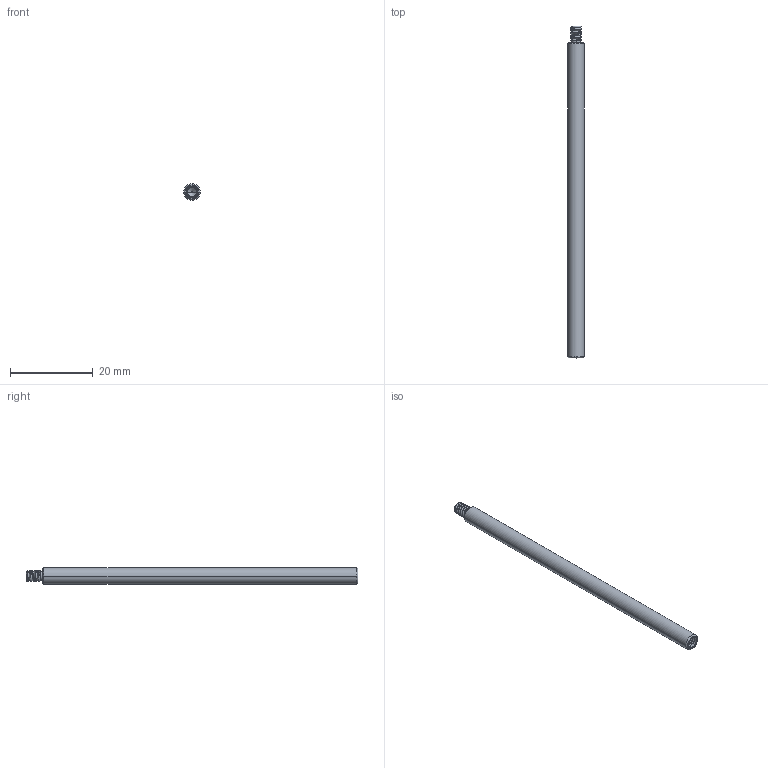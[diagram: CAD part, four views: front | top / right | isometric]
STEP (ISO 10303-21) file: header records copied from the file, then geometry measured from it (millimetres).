
FILE_DESCRIPTION((''),'2;1');
FILE_NAME('SR30','2022-11-15T',('daizh'),(''),'CREO PARAMETRIC BY PTC INC, 2018360','CREO PARAMETRIC BY PTC INC, 2018360','');
FILE_SCHEMA(('CONFIG_CONTROL_DESIGN'));
Length unit declared in the file: millimetre
Products named in the file (1): SR30
Bounding box: 4 x 80.2 x 4 mm (x, y, z)
Volume: 935.4 mm3; surface area: 1100.5 mm2
Topology: 1 solids, 1 shells, 64 faces, 164 edges, 105 vertices
Faces by surface type: cylinder 35, bspline 14, cone 10, plane 5
Entity records: 4412 total; most frequent: CARTESIAN_POINT 3013, ORIENTED_EDGE 328, DIRECTION 202, EDGE_CURVE 164, VERTEX_POINT 105, B_SPLINE_CURVE_WITH_KNOTS 86, AXIS2_PLACEMENT_3D 74, EDGE_LOOP 67
